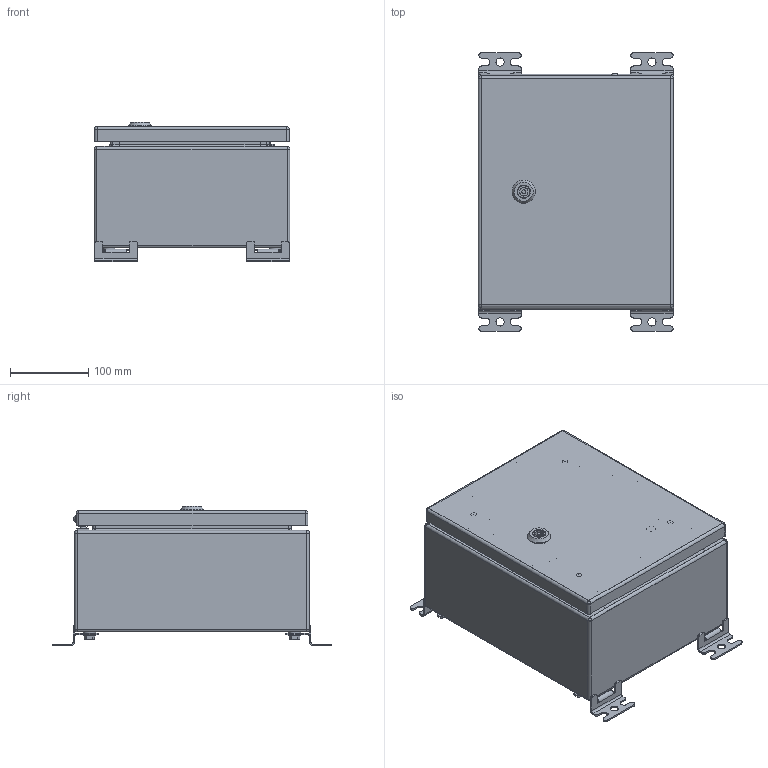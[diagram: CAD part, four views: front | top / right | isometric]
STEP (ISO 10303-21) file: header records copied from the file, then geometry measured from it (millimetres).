
FILE_DESCRIPTION(('STEP AP242'), '1');
FILE_NAME('400 ﾙﾌﾏ-1 (IP-56)', '', ('UNSPECIFIED'), ('UNSPECIFIED'), 'C3D Converter', 'C3D Toolkit', '');
FILE_SCHEMA(('AP242_MANAGED_MODEL_BASED_3D_ENGINEERING_MIM_LF { 1 0 10303 442 1 1 4 }'));
Length unit declared in the file: millimetre
Products named in the file (47): ЩМП-1-Ф СБ; 410-Ф; 420; 421; 411-Ф; 412; 490; 491; 401.01; 440-Ф; 441-Ф; 402; 450; 451; ЦИУЛ.210677.00.03-03; 452
Assembly tree (98 placements, depth 4):
  ЩМП-1-Ф СБ
    410-Ф
      420
        421
        (unnamed)  x4
        (unnamed)
      411-Ф
      412
    490  x2
      491
      (unnamed)
      (unnamed)
      (unnamed)
      (unnamed)
      (unnamed)
    490  x2
      491
      (unnamed)
      (unnamed)
      (unnamed)
      (unnamed)
      (unnamed)
    401.01
    (unnamed)  x4
    (unnamed)  x4
    (unnamed)  x4
    (unnamed)  x4
    (unnamed)  x2
      (unnamed)
      (unnamed)
      (unnamed)
    (unnamed)  x4
    440-Ф
      441-Ф
      (unnamed)
      (unnamed)  x4
      (unnamed)  x2
    402  x2
    (unnamed)  x4
    (unnamed)  x4
    (unnamed)
      (unnamed)
      (unnamed)
      (unnamed)
      (unnamed)
      (unnamed)
    (unnamed)
    450
      451
      (unnamed)  x3
      (unnamed)  x2
      (unnamed)  x2
      (unnamed)  x3
      ЦИУЛ.210677.00.03-03
      452
      (unnamed)
      (unnamed)  x2
Bounding box: 250 x 356 x 178.1 mm (x, y, z)
Volume: 824233.8 mm3; surface area: 973341 mm2
Topology: 106 solids, 106 shells, 2011 faces, 4740 edges, 2977 vertices
Faces by surface type: plane 1157, cylinder 543, cone 204, sphere 31, torus 29, extrusion 27, bspline 20
Full cylindrical faces by diameter (mm): 0.5 x4, 2.6 x4, 3.3 x1, 3.5 x28, 4 x1, 4.134 x3, 4.2 x5, 4.917 x4, 5 x8, 5.3 x2, 5.5 x11, 5.75 x3, 5.8 x1, 6 x17, 6.4 x4, 6.647 x8, 7 x6, 7.3 x4, 7.4 x1, 7.5 x6, 8 x14, 8.376 x4, 8.4 x8, 8.5 x19, 9 x12, 10 x10, 10.4 x1, 10.5 x5, 11 x4, 11.4 x1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
Entity records: 68165 total; most frequent: CARTESIAN_POINT 36074, DIRECTION 5252, ORIENTED_EDGE 5140, EDGE_CURVE 2570, AXIS2_PLACEMENT_3D 1889, VERTEX_POINT 1712, VECTOR 1474, LINE 1447
